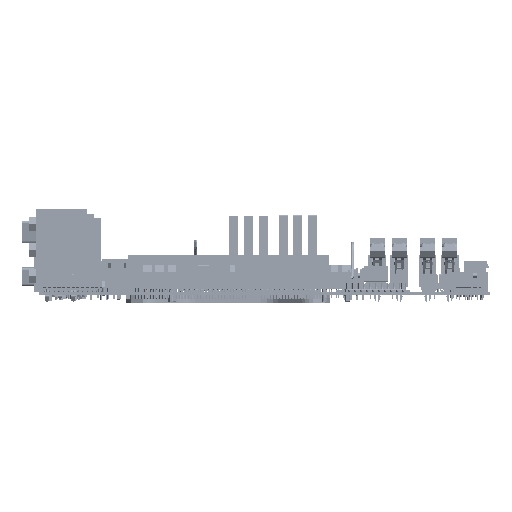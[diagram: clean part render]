
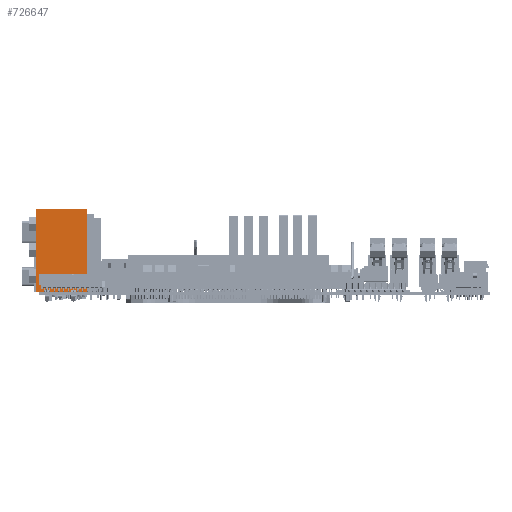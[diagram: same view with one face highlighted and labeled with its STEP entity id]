
A CAD part, left-side view. The second image highlights one B-rep face of the part: STEP entity #726647.
In plain terms, the highlighted planar face has unit normal (-1, 0, 0) as drawn and (1, 0, 0) by its records, which use the part's own axes.
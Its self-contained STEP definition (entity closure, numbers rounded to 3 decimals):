
#725885=DIRECTION('',(0.,0.,1.));
#725886=VECTOR('',#725885,21.45);
#725887=CARTESIAN_POINT('',(12.25,34.7,-21.45));
#725888=LINE('',#725887,#725886);
#725897=DIRECTION('',(0.,-1.,0.));
#725898=VECTOR('',#725897,34.7);
#725899=CARTESIAN_POINT('',(12.25,34.7,0.));
#725900=LINE('',#725899,#725898);
#726021=DIRECTION('',(0.,-1.,0.));
#726022=VECTOR('',#726021,34.7);
#726023=CARTESIAN_POINT('',(12.25,34.7,-21.45));
#726024=LINE('',#726023,#726022);
#726037=DIRECTION('',(0.,0.,1.));
#726038=VECTOR('',#726037,21.45);
#726039=CARTESIAN_POINT('',(12.25,0.,-21.45));
#726040=LINE('',#726039,#726038);
#726349=CARTESIAN_POINT('',(12.25,34.7,-21.45));
#726350=VERTEX_POINT('',#726349);
#726351=CARTESIAN_POINT('',(12.25,34.7,0.));
#726352=VERTEX_POINT('',#726351);
#726357=CARTESIAN_POINT('',(12.25,0.,-21.45));
#726358=VERTEX_POINT('',#726357);
#726359=CARTESIAN_POINT('',(12.25,0.,0.));
#726360=VERTEX_POINT('',#726359);
#726634=CARTESIAN_POINT('',(12.25,34.7,-21.45));
#726635=DIRECTION('',(1.,0.,0.));
#726636=DIRECTION('',(0.,0.,1.));
#726637=AXIS2_PLACEMENT_3D('',#726634,#726635,#726636);
#726638=PLANE('',#726637);
#726639=ORIENTED_EDGE('',*,*,#726490,.F.);
#726641=ORIENTED_EDGE('',*,*,#726640,.T.);
#726643=ORIENTED_EDGE('',*,*,#726642,.T.);
#726644=ORIENTED_EDGE('',*,*,#726518,.F.);
#726645=EDGE_LOOP('',(#726639,#726641,#726643,#726644));
#726646=FACE_OUTER_BOUND('',#726645,.F.);
#726647=ADVANCED_FACE('',(#726646),#726638,.T.);
#726490=EDGE_CURVE('',#726350,#726352,#725888,.T.);
#726518=EDGE_CURVE('',#726352,#726360,#725900,.T.);
#726640=EDGE_CURVE('',#726350,#726358,#726024,.T.);
#726642=EDGE_CURVE('',#726358,#726360,#726040,.T.);
